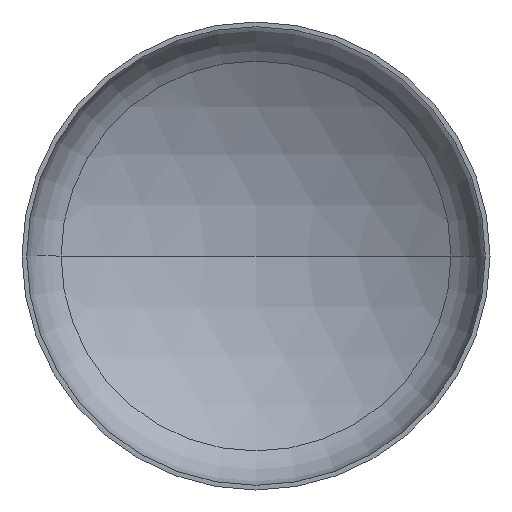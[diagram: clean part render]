
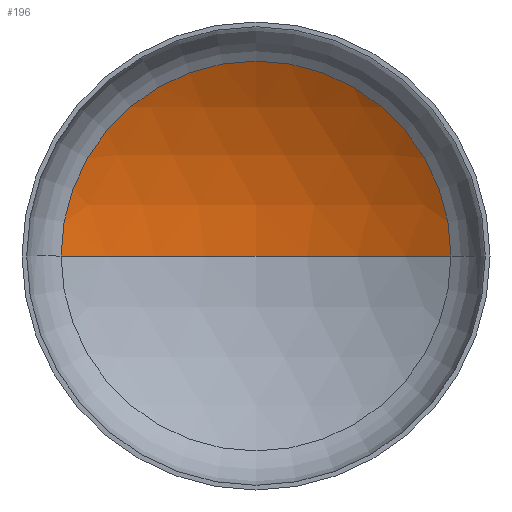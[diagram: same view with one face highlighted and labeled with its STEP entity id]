
A CAD part, front view. The second image highlights one B-rep face of the part: STEP entity #196.
In plain terms, the highlighted spherical face has radius 1200 mm.
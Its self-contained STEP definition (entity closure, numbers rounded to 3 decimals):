
#2 = DIRECTION ( 'NONE',  ( 1., 0., 0. ) ) ;
#5 = EDGE_LOOP ( 'NONE', ( #15, #9, #101 ) ) ;
#9 = ORIENTED_EDGE ( 'NONE', *, *, #174, .T. ) ;
#14 = DIRECTION ( 'NONE',  ( 1., 0., 0. ) ) ;
#15 = ORIENTED_EDGE ( 'NONE', *, *, #175, .F. ) ;
#21 = DIRECTION ( 'NONE',  ( -1., 0., 0. ) ) ;
#22 = VERTEX_POINT ( 'NONE', #280 ) ;
#28 = DIRECTION ( 'NONE',  ( 0., 0., -1. ) ) ;
#38 = CARTESIAN_POINT ( 'NONE',  ( 0., -783.176, 0. ) ) ;
#69 = AXIS2_PLACEMENT_3D ( 'NONE', #180, #244, #98 ) ;
#71 = VERTEX_POINT ( 'NONE', #252 ) ;
#98 = DIRECTION ( 'NONE',  ( -1., 0., 0. ) ) ;
#99 = VERTEX_POINT ( 'NONE', #240 ) ;
#101 = ORIENTED_EDGE ( 'NONE', *, *, #172, .T. ) ;
#117 = AXIS2_PLACEMENT_3D ( 'NONE', #261, #394, #2 ) ;
#123 = AXIS2_PLACEMENT_3D ( 'NONE', #38, #28, #21 ) ;
#128 = AXIS2_PLACEMENT_3D ( 'NONE', #195, #348, #14 ) ;
#172 = EDGE_CURVE ( 'NONE', #71, #99, #409, .T. ) ;
#174 = EDGE_CURVE ( 'NONE', #22, #71, #354, .T. ) ;
#175 = EDGE_CURVE ( 'NONE', #22, #99, #405, .T. ) ;
#180 = CARTESIAN_POINT ( 'NONE',  ( 0., -783.176, 0. ) ) ;
#195 = CARTESIAN_POINT ( 'NONE',  ( 0., 241.372, 0. ) ) ;
#196 = ADVANCED_FACE ( 'NONE', ( #401 ), #221, .F. ) ;
#221 = SPHERICAL_SURFACE ( 'NONE', #69, 1200. ) ;
#240 = CARTESIAN_POINT ( 'NONE',  ( -624.742, 241.372, 0. ) ) ;
#244 = DIRECTION ( 'NONE',  ( 0., 0., -1. ) ) ;
#252 = CARTESIAN_POINT ( 'NONE',  ( 624.742, 241.372, 0. ) ) ;
#261 = CARTESIAN_POINT ( 'NONE',  ( 0., -783.176, 0. ) ) ;
#280 = CARTESIAN_POINT ( 'NONE',  ( 0., 416.824, 0. ) ) ;
#348 = DIRECTION ( 'NONE',  ( 0., -1., 0. ) ) ;
#354 = CIRCLE ( 'NONE', #123, 1200. ) ;
#394 = DIRECTION ( 'NONE',  ( 0., 0., 1. ) ) ;
#401 = FACE_OUTER_BOUND ( 'NONE', #5, .T. ) ;
#405 = CIRCLE ( 'NONE', #117, 1200. ) ;
#409 = CIRCLE ( 'NONE', #128, 624.742 ) ;
